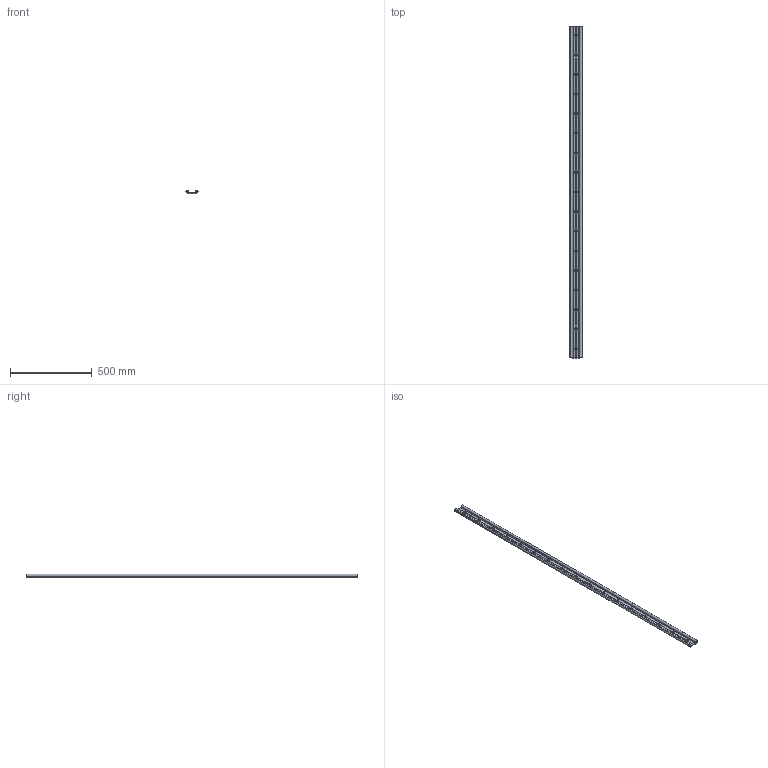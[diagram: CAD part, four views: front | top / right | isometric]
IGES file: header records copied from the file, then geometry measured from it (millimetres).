
Start section: ACIS data in IGES format
Global section: file name: Unknown; native system: ACIS; preprocessor: *IGES writer V5.2; author: unknown author; organization: unknown organization; date: 20100223.184211; units: millimetre
Bounding box: 74 x 2032 x 22 mm (x, y, z)
Surface area: 501869.3 mm2 (no closed solid volume)
Topology: 0 solids, 0 shells, 154 faces, 1156 edges, 1156 vertices
Faces by surface type: bspline 154
